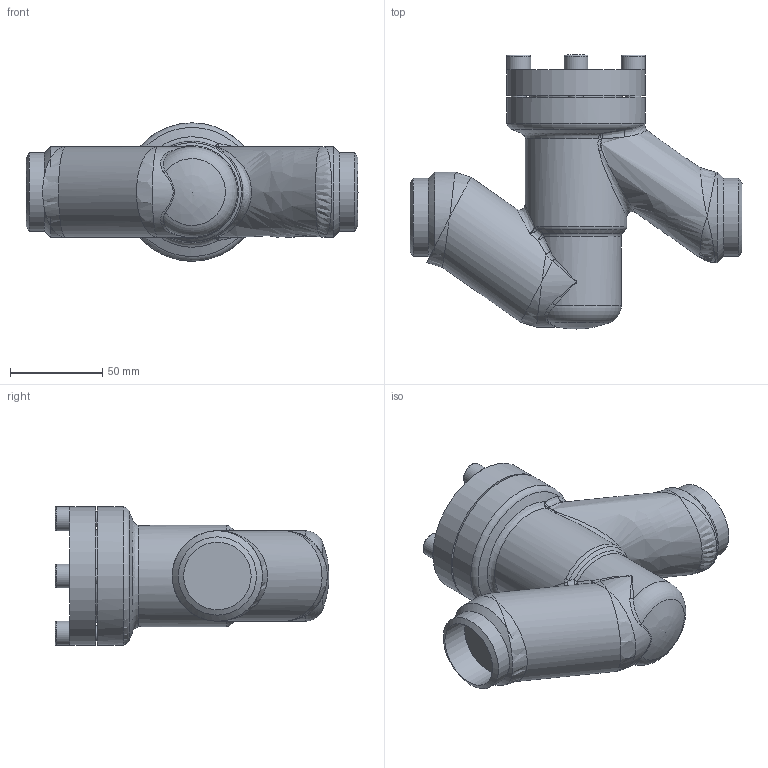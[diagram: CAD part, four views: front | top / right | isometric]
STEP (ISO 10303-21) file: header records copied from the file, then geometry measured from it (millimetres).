
FILE_DESCRIPTION((''),'2;1');
FILE_NAME('Y:\Home\AWP_CAD (2D+3D-Ansicht)\CAD Drawings\3D_STEP\RV D AE\RV D AE 28G00-32 PS25.stp','2012-08-27T11:40:48',('Lempe.Ha'),(''),'Autodesk Inventor 2012','Autodesk Inventor 2012','');
FILE_SCHEMA(('AUTOMOTIVE_DESIGN { 1 0 10303 214 1 1 1 1 }'));
Length unit declared in the file: millimetre
Products named in the file (4): 28G00C13A5A00000; 16G00E13.5034004; 28300E13.5141004; DIN 912 - ersetzt durch DIN EN ISO 4762 M8 x 25
Assembly tree (6 placements, depth 2):
  28G00C13A5A00000
    16G00E13.5034004
    28300E13.5141004
    DIN 912 - ersetzt durch DIN EN ISO 4762 M8 x 25  x4
Bounding box: 180 x 148.5 x 75 mm (x, y, z)
Volume: 467814.8 mm3; surface area: 94247.6 mm2
Topology: 6 solids, 6 shells, 171 faces, 403 edges, 239 vertices
Faces by surface type: plane 49, cylinder 41, bspline 38, cone 24, torus 17, sphere 2
Full cylindrical faces by diameter (mm): 6.647 x4, 8 x4, 9 x4, 13 x4, 32 x1, 36 x2, 36.6 x2, 40.987 x1, 42.4 x2, 43 x3, 48 x1, 49 x2, 50 x2, 54.987 x1, 75 x2
Entity records: 5115 total; most frequent: CARTESIAN_POINT 2641, ORIENTED_EDGE 440, DIRECTION 430, EDGE_CURVE 220, AXIS2_PLACEMENT_3D 208, EDGE_LOOP 195, VERTEX_POINT 161, FACE_OUTER_BOUND 126
